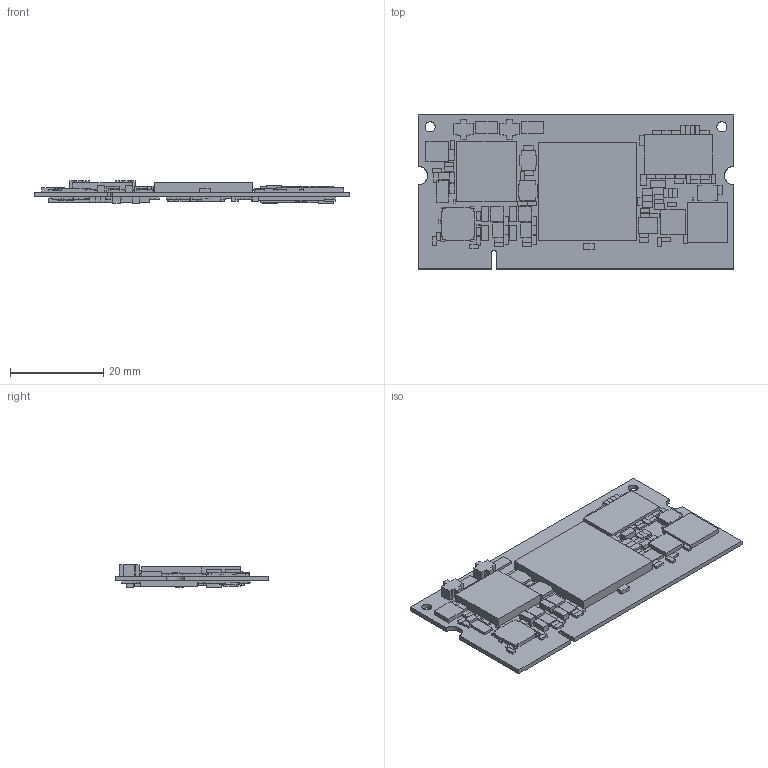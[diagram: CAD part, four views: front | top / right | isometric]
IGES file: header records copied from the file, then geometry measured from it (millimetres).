
Start section: SolidWorks IGES file using analytic representation for surfaces
Global section: file name: D:\SOLO\Layout\VAR_SOM_SOLO_V1-2_VPC0412-FINAL1.IGS; native system: SolidWorks 2022; preprocessor: SolidWorks 2022; author: Äãñëí; date: 220213.193138; units: millimetre
Bounding box: 67.6 x 32.99 x 4.9 mm (x, y, z)
Surface area: 10464 mm2 (no closed solid volume)
Topology: 0 solids, 0 shells, 2510 faces, 11986 edges, 11986 vertices
Faces by surface type: bspline 2493, revolution 17
